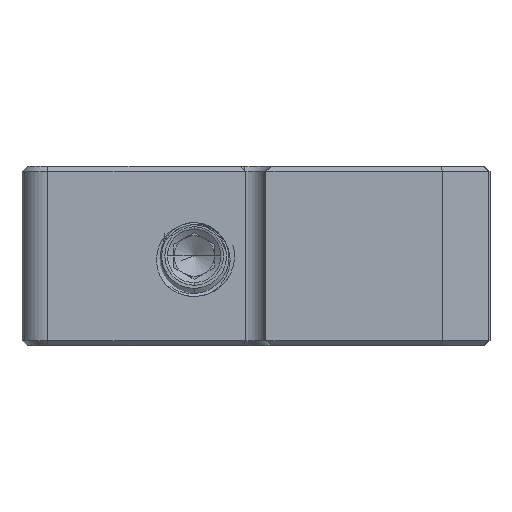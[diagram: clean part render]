
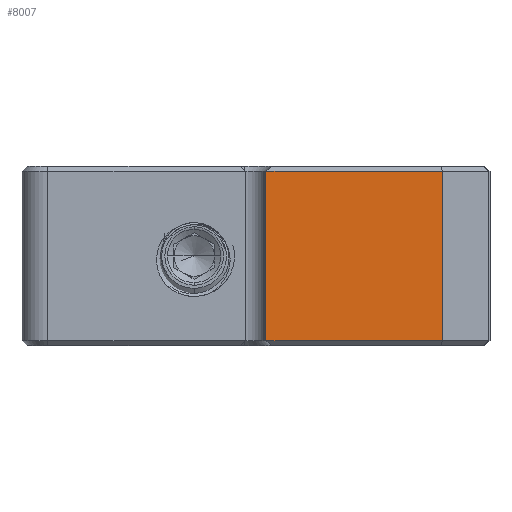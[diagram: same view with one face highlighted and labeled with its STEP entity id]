
A CAD part, left-side view. The second image highlights one B-rep face of the part: STEP entity #8007.
In plain terms, the highlighted planar face has unit normal (-1, 0, 0).
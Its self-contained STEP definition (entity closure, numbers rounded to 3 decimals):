
#2=DIRECTION('',(0.,0.,1.));
#3=VECTOR('',#2,8.382);
#4=CARTESIAN_POINT('',(9.748,-14.247,-10.73));
#5=LINE('',#4,#3);
#417=DIRECTION('',(0.,1.,0.));
#418=VECTOR('',#417,8.75);
#419=CARTESIAN_POINT('',(9.748,-22.998,-10.73));
#420=LINE('',#419,#418);
#697=DIRECTION('',(0.,0.,1.));
#698=VECTOR('',#697,8.382);
#699=CARTESIAN_POINT('',(9.748,-22.998,-10.73));
#700=LINE('',#699,#698);
#701=DIRECTION('',(0.,-1.,0.));
#702=VECTOR('',#701,8.75);
#703=CARTESIAN_POINT('',(9.748,-14.247,-2.348));
#704=LINE('',#703,#702);
#6109=CARTESIAN_POINT('',(9.748,-22.998,
-10.73));
#6111=VERTEX_POINT('',#6109);
#6221=CARTESIAN_POINT('',(9.748,-14.247,
-2.348));
#6223=VERTEX_POINT('',#6221);
#6260=CARTESIAN_POINT('',(9.748,-14.247,
-10.73));
#6261=VERTEX_POINT('',#6260);
#6273=CARTESIAN_POINT('',(9.748,-22.998,
-2.348));
#6274=VERTEX_POINT('',#6273);
#7995=CARTESIAN_POINT('',(9.748,10.177,-2.094));
#7996=DIRECTION('',(1.,0.,0.));
#7997=DIRECTION('',(0.,1.,0.));
#7998=AXIS2_PLACEMENT_3D('',#7995,#7996,#7997);
#7999=PLANE('',#7998);
#8000=ORIENTED_EDGE('',*,*,#6598,.T.);
#8002=ORIENTED_EDGE('',*,*,#8001,.T.);
#8003=ORIENTED_EDGE('',*,*,#7986,.F.);
#8004=ORIENTED_EDGE('',*,*,#7543,.T.);
#8005=EDGE_LOOP('',(#8000,#8002,#8003,#8004));
#8006=FACE_OUTER_BOUND('',#8005,.F.);
#8007=ADVANCED_FACE('',(#8006),#7999,.F.);
#6598=EDGE_CURVE('',#6261,#6223,#5,.T.);
#7543=EDGE_CURVE('',#6111,#6261,#420,.T.);
#7986=EDGE_CURVE('',#6111,#6274,#700,.T.);
#8001=EDGE_CURVE('',#6223,#6274,#704,.T.);
